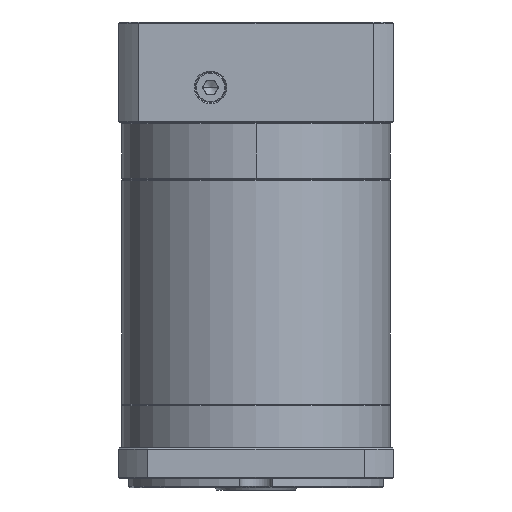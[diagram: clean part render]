
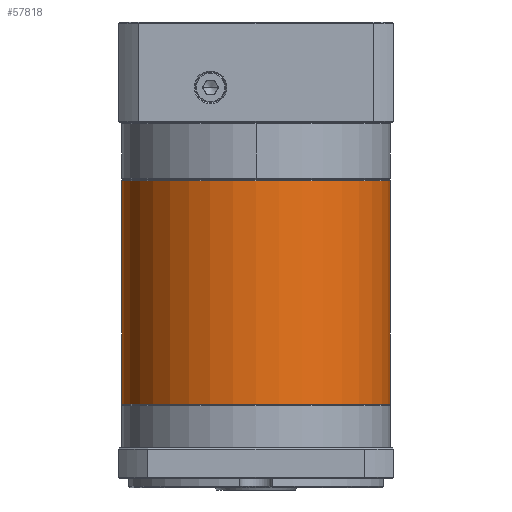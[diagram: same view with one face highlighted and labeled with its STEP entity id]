
A CAD part, front view. The second image highlights one B-rep face of the part: STEP entity #57818.
In plain terms, the highlighted cylindrical face has radius 57.5 mm (diameter 115 mm), a partial arc.
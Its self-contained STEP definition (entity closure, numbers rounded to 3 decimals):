
#8823 = DIRECTION ( 'NONE',  ( 0., 0., -1. ) ) ;
#10124 = CARTESIAN_POINT ( 'NONE',  ( 48.62, 55.652, -58.208 ) ) ;
#10213 = ORIENTED_EDGE ( 'NONE', *, *, #78842, .T. ) ;
#15682 = AXIS2_PLACEMENT_3D ( 'NONE', #80842, #80426, #42243 ) ;
#16157 = CYLINDRICAL_SURFACE ( 'NONE', #15682, 57.5 ) ;
#16766 = DIRECTION ( 'NONE',  ( 0., 0., -1. ) ) ;
#22805 = EDGE_CURVE ( 'NONE', #89396, #115726, #26787, .T. ) ;
#26787 = CIRCLE ( 'NONE', #54413, 57.5 ) ;
#27236 = CARTESIAN_POINT ( 'NONE',  ( 106.12, 55.652, -153.92 ) ) ;
#30129 = LINE ( 'NONE', #105498, #117597 ) ;
#32723 = ORIENTED_EDGE ( 'NONE', *, *, #48632, .T. ) ;
#36772 = CIRCLE ( 'NONE', #123743, 57.5 ) ;
#39121 = VERTEX_POINT ( 'NONE', #126163 ) ;
#40217 = LINE ( 'NONE', #101185, #60171 ) ;
#41512 = ORIENTED_EDGE ( 'NONE', *, *, #55481, .F. ) ;
#42243 = DIRECTION ( 'NONE',  ( -1., 0., 0. ) ) ;
#42460 = DIRECTION ( 'NONE',  ( 0., 0., -1. ) ) ;
#44438 = DIRECTION ( 'NONE',  ( 0., 0., 1. ) ) ;
#47900 = DIRECTION ( 'NONE',  ( -1., 0., 0. ) ) ;
#48632 = EDGE_CURVE ( 'NONE', #115726, #61204, #36772, .T. ) ;
#48674 = ORIENTED_EDGE ( 'NONE', *, *, #22805, .T. ) ;
#49448 = VERTEX_POINT ( 'NONE', #27236 ) ;
#53764 = EDGE_CURVE ( 'NONE', #61204, #39121, #30129, .T. ) ;
#54413 = AXIS2_PLACEMENT_3D ( 'NONE', #115822, #96051, #85360 ) ;
#55481 = EDGE_CURVE ( 'NONE', #89396, #49448, #40217, .T. ) ;
#57818 = ADVANCED_FACE ( 'NONE', ( #99074 ), #16157, .T. ) ;
#59202 = EDGE_LOOP ( 'NONE', ( #41512, #48674, #32723, #94673, #10213 ) ) ;
#60171 = VECTOR ( 'NONE', #42460, 1000. ) ;
#61204 = VERTEX_POINT ( 'NONE', #96077 ) ;
#61978 = CIRCLE ( 'NONE', #66142, 57.5 ) ;
#64532 = DIRECTION ( 'NONE',  ( -1., 0., 0. ) ) ;
#66142 = AXIS2_PLACEMENT_3D ( 'NONE', #103495, #44438, #64532 ) ;
#71703 = CARTESIAN_POINT ( 'NONE',  ( 106.12, 55.652, -58.208 ) ) ;
#74421 = CARTESIAN_POINT ( 'NONE',  ( 48.62, -1.848, -58.208 ) ) ;
#78842 = EDGE_CURVE ( 'NONE', #39121, #49448, #61978, .T. ) ;
#80426 = DIRECTION ( 'NONE',  ( 0., 0., -1. ) ) ;
#80842 = CARTESIAN_POINT ( 'NONE',  ( 48.62, 55.652, -57.708 ) ) ;
#85360 = DIRECTION ( 'NONE',  ( -1., 0., 0. ) ) ;
#89396 = VERTEX_POINT ( 'NONE', #71703 ) ;
#94673 = ORIENTED_EDGE ( 'NONE', *, *, #53764, .T. ) ;
#96051 = DIRECTION ( 'NONE',  ( 0., 0., -1. ) ) ;
#96077 = CARTESIAN_POINT ( 'NONE',  ( -8.88, 55.652, -58.208 ) ) ;
#99074 = FACE_OUTER_BOUND ( 'NONE', #59202, .T. ) ;
#101185 = CARTESIAN_POINT ( 'NONE',  ( 106.12, 55.652, -57.708 ) ) ;
#103495 = CARTESIAN_POINT ( 'NONE',  ( 48.62, 55.652, -153.92 ) ) ;
#105498 = CARTESIAN_POINT ( 'NONE',  ( -8.88, 55.652, -57.708 ) ) ;
#115726 = VERTEX_POINT ( 'NONE', #74421 ) ;
#115822 = CARTESIAN_POINT ( 'NONE',  ( 48.62, 55.652, -58.208 ) ) ;
#117597 = VECTOR ( 'NONE', #16766, 1000. ) ;
#123743 = AXIS2_PLACEMENT_3D ( 'NONE', #10124, #8823, #47900 ) ;
#126163 = CARTESIAN_POINT ( 'NONE',  ( -8.88, 55.652, -153.92 ) ) ;
